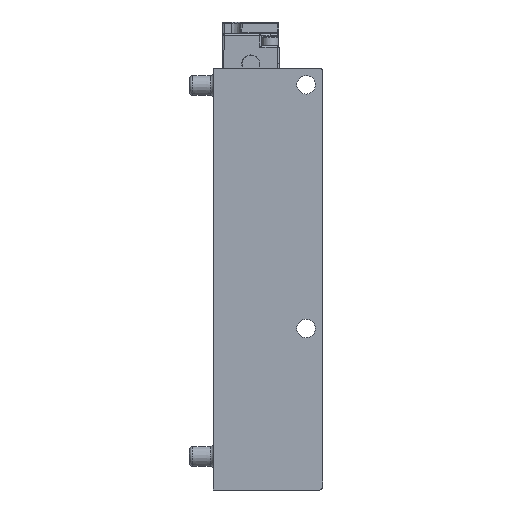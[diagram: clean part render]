
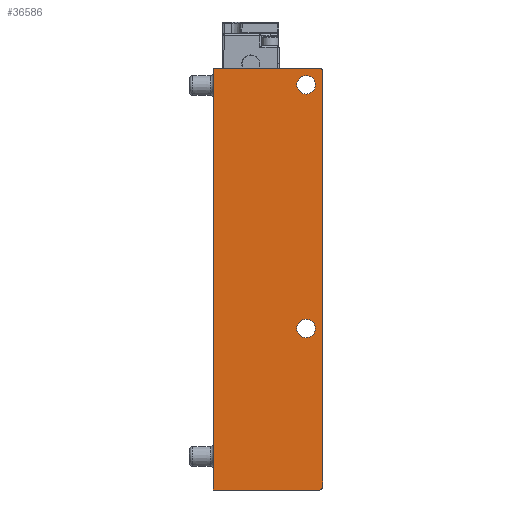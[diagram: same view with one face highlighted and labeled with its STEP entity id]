
A CAD part, front view. The second image highlights one B-rep face of the part: STEP entity #36586.
In plain terms, the highlighted planar face has unit normal (0, -1, 0).
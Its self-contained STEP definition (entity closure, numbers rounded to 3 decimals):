
#635 = CARTESIAN_POINT ( 'NONE',  ( 7.75, 0., 70.5 ) ) ;
#994 = LINE ( 'NONE', #30420, #107357 ) ;
#1100 = DIRECTION ( 'NONE',  ( 1., 0., 0. ) ) ;
#2970 = EDGE_CURVE ( 'NONE', #48401, #67729, #47689, .T. ) ;
#4644 = VERTEX_POINT ( 'NONE', #17979 ) ;
#8108 = ORIENTED_EDGE ( 'NONE', *, *, #2970, .T. ) ;
#9539 = CARTESIAN_POINT ( 'NONE',  ( 16.343, 0., 65. ) ) ;
#9952 = PLANE ( 'NONE',  #66249 ) ;
#13568 = CARTESIAN_POINT ( 'NONE',  ( 17.75, 0., -70.5 ) ) ;
#14564 = AXIS2_PLACEMENT_3D ( 'NONE', #30092, #88710, #38578 ) ;
#15157 = FACE_BOUND ( 'NONE', #106686, .T. ) ;
#17979 = CARTESIAN_POINT ( 'NONE',  ( -17.75, 0., -70.5 ) ) ;
#18666 = DIRECTION ( 'NONE',  ( 0., 1., 0. ) ) ;
#20592 = VERTEX_POINT ( 'NONE', #77134 ) ;
#25323 = VECTOR ( 'NONE', #35468, 1000. ) ;
#26566 = VERTEX_POINT ( 'NONE', #9539 ) ;
#27476 = VECTOR ( 'NONE', #35558, 1000. ) ;
#30020 = AXIS2_PLACEMENT_3D ( 'NONE', #101581, #51349, #1100 ) ;
#30092 = CARTESIAN_POINT ( 'NONE',  ( 17.75, 0., -69.5 ) ) ;
#30420 = CARTESIAN_POINT ( 'NONE',  ( 7.75, 0., -70.5 ) ) ;
#31660 = EDGE_LOOP ( 'NONE', ( #38090 ) ) ;
#32003 = CARTESIAN_POINT ( 'NONE',  ( 13.25, 0., 65. ) ) ;
#33173 = EDGE_CURVE ( 'NONE', #69715, #20592, #54031, .T. ) ;
#35468 = DIRECTION ( 'NONE',  ( 0., 0., 1. ) ) ;
#35558 = DIRECTION ( 'NONE',  ( 0., 0., -1. ) ) ;
#35665 = EDGE_CURVE ( 'NONE', #26566, #26566, #82371, .T. ) ;
#36586 = ADVANCED_FACE ( 'NONE', ( #99191, #15157, #76692 ), #9952, .F. ) ;
#38090 = ORIENTED_EDGE ( 'NONE', *, *, #107396, .T. ) ;
#38578 = DIRECTION ( 'NONE',  ( 1., 0., 0. ) ) ;
#40438 = DIRECTION ( 'NONE',  ( 1., 0., 0. ) ) ;
#42411 = DIRECTION ( 'NONE',  ( -1., 0., 0. ) ) ;
#45112 = AXIS2_PLACEMENT_3D ( 'NONE', #32003, #90610, #40438 ) ;
#47689 = LINE ( 'NONE', #102962, #25323 ) ;
#48401 = VERTEX_POINT ( 'NONE', #84263 ) ;
#50034 = CARTESIAN_POINT ( 'NONE',  ( 17.75, 0., 69.5 ) ) ;
#51349 = DIRECTION ( 'NONE',  ( 0., 1., 0. ) ) ;
#54031 = LINE ( 'NONE', #635, #73628 ) ;
#58414 = DIRECTION ( 'NONE',  ( 1., 0., 0. ) ) ;
#62173 = ORIENTED_EDGE ( 'NONE', *, *, #69362, .T. ) ;
#64108 = EDGE_CURVE ( 'NONE', #67729, #69715, #89212, .T. ) ;
#66249 = AXIS2_PLACEMENT_3D ( 'NONE', #68915, #18666, #77251 ) ;
#67729 = VERTEX_POINT ( 'NONE', #97229 ) ;
#68915 = CARTESIAN_POINT ( 'NONE',  ( 7.75, 0., 70.5 ) ) ;
#69362 = EDGE_CURVE ( 'NONE', #89555, #48401, #103197, .T. ) ;
#69715 = VERTEX_POINT ( 'NONE', #108327 ) ;
#71131 = ORIENTED_EDGE ( 'NONE', *, *, #64108, .T. ) ;
#72600 = EDGE_LOOP ( 'NONE', ( #87412, #62173, #8108, #71131, #93883, #90574 ) ) ;
#73628 = VECTOR ( 'NONE', #42411, 1000. ) ;
#76692 = FACE_OUTER_BOUND ( 'NONE', #72600, .T. ) ;
#77134 = CARTESIAN_POINT ( 'NONE',  ( -17.75, 0., 70.5 ) ) ;
#77251 = DIRECTION ( 'NONE',  ( 1., 0., 0. ) ) ;
#80068 = VERTEX_POINT ( 'NONE', #97270 ) ;
#82371 = CIRCLE ( 'NONE', #45112, 3.093 ) ;
#84263 = CARTESIAN_POINT ( 'NONE',  ( 18.75, 0., -69.5 ) ) ;
#85708 = CARTESIAN_POINT ( 'NONE',  ( -17.75, 0., 70.5 ) ) ;
#87412 = ORIENTED_EDGE ( 'NONE', *, *, #93248, .F. ) ;
#87428 = CIRCLE ( 'NONE', #30020, 3.093 ) ;
#88710 = DIRECTION ( 'NONE',  ( 0., -1., 0. ) ) ;
#89212 = CIRCLE ( 'NONE', #103139, 1. ) ;
#89555 = VERTEX_POINT ( 'NONE', #13568 ) ;
#90574 = ORIENTED_EDGE ( 'NONE', *, *, #106500, .T. ) ;
#90610 = DIRECTION ( 'NONE',  ( 0., 1., 0. ) ) ;
#91772 = LINE ( 'NONE', #85708, #27476 ) ;
#93248 = EDGE_CURVE ( 'NONE', #89555, #4644, #994, .T. ) ;
#93883 = ORIENTED_EDGE ( 'NONE', *, *, #33173, .T. ) ;
#97229 = CARTESIAN_POINT ( 'NONE',  ( 18.75, 0., 69.5 ) ) ;
#97270 = CARTESIAN_POINT ( 'NONE',  ( 16.343, 0., -16.5 ) ) ;
#97591 = DIRECTION ( 'NONE',  ( -1., 0., 0. ) ) ;
#99191 = FACE_BOUND ( 'NONE', #31660, .T. ) ;
#101581 = CARTESIAN_POINT ( 'NONE',  ( 13.25, 0., -16.5 ) ) ;
#102962 = CARTESIAN_POINT ( 'NONE',  ( 18.75, 0., 70.5 ) ) ;
#103139 = AXIS2_PLACEMENT_3D ( 'NONE', #50034, #108726, #58414 ) ;
#103197 = CIRCLE ( 'NONE', #14564, 1. ) ;
#106500 = EDGE_CURVE ( 'NONE', #20592, #4644, #91772, .T. ) ;
#106686 = EDGE_LOOP ( 'NONE', ( #107925 ) ) ;
#107357 = VECTOR ( 'NONE', #97591, 1000. ) ;
#107396 = EDGE_CURVE ( 'NONE', #80068, #80068, #87428, .T. ) ;
#107925 = ORIENTED_EDGE ( 'NONE', *, *, #35665, .T. ) ;
#108327 = CARTESIAN_POINT ( 'NONE',  ( 17.75, 0., 70.5 ) ) ;
#108726 = DIRECTION ( 'NONE',  ( 0., -1., 0. ) ) ;
